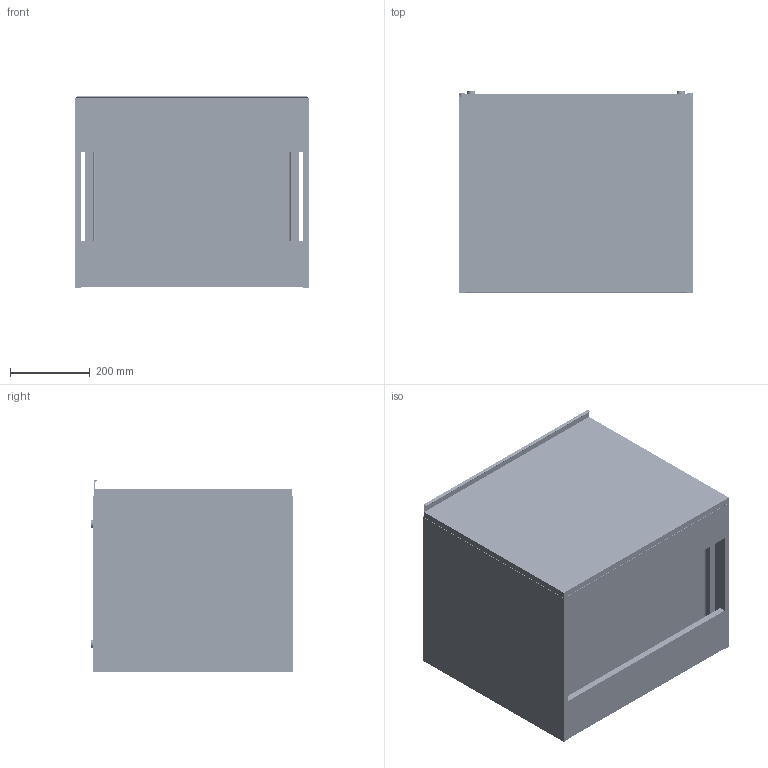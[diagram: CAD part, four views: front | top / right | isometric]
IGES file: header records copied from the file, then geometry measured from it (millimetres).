
Start section: SolidWorks IGES file using analytic representation for surfaces
Global section: file name: \\PDM-SQL\Technolodzy\WYROBY\_Nowa dokumentacja\SZAFKA VIGOUR 60 1S+1S - 167922, 167923, 167924\SZAFKA VIGOUR 60 1S+1S.IGS; native system: SolidWorks 2012; preprocessor: SolidWorks 2012; author: rkopecki; date: 200625.124128; units: millimetre
Bounding box: 586 x 504.5 x 478.55 mm (x, y, z)
Surface area: 4095847.4 mm2 (no closed solid volume)
Topology: 0 solids, 4 shells, 1845 faces, 22177 edges, 21874 vertices
Faces by surface type: bspline 925, revolution 920
